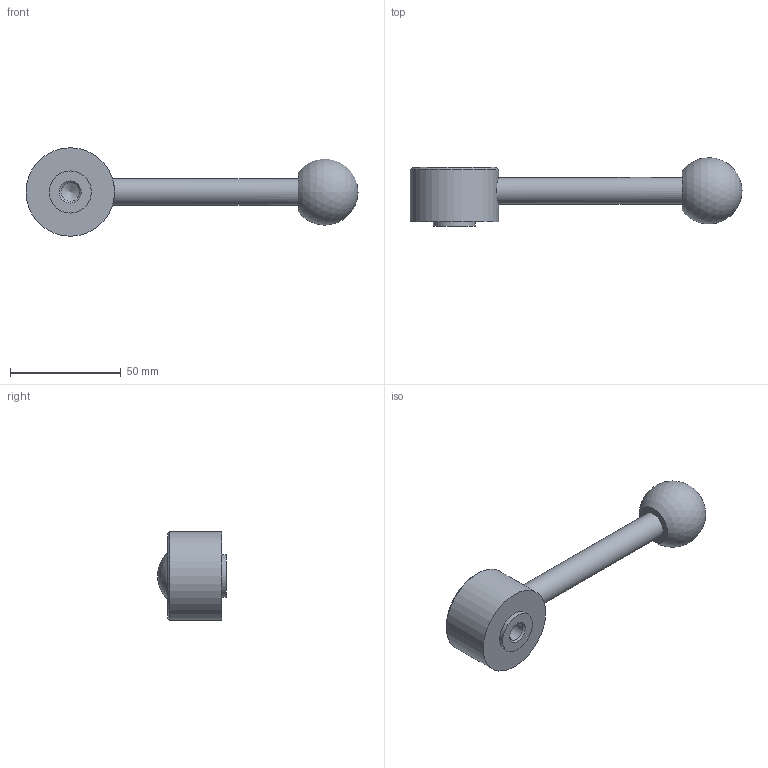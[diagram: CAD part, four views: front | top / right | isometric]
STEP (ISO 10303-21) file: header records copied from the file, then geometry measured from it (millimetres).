
FILE_DESCRIPTION( ( 'STEP AP203' ), '1' );
FILE_NAME( 'C:/Temp/Ganter_Step_05_03_2020/data/2_1/gn_125/gn_125_mb/gn_125_mb_d/Flat Adjustable Lever GN 125-40-M10-D.stp', '2020-03-05T11:00:39', ( 'License CC BY-ND 4.0' ), ( 'CADENAS' ), ' ', 'PARTsolutions', ' ' );
FILE_SCHEMA( ( 'CONFIG_CONTROL_DESIGN' ) );
Length unit declared in the file: millimetre
Products named in the file (1): _Flat Adjustable Lever GN 125-40-M10-D
Bounding box: 150 x 30.89 x 40 mm (x, y, z)
Volume: 53302.8 mm3; surface area: 11820.6 mm2
Topology: 1 solids, 1 shells, 14 faces, 25 edges, 16 vertices
Faces by surface type: cylinder 5, plane 5, cone 3, sphere 1
Full cylindrical faces by diameter (mm): 8.376 x1, 12 x1, 19 x1, 28 x1, 40 x1
Entity records: 406 total; most frequent: CARTESIAN_POINT 126, DIRECTION 54, AXIS2_PLACEMENT_3D 27, EDGE_LOOP 26, ORIENTED_EDGE 26, FACE_OUTER_BOUND 19, VERTEX_POINT 15, ADVANCED_FACE 14
